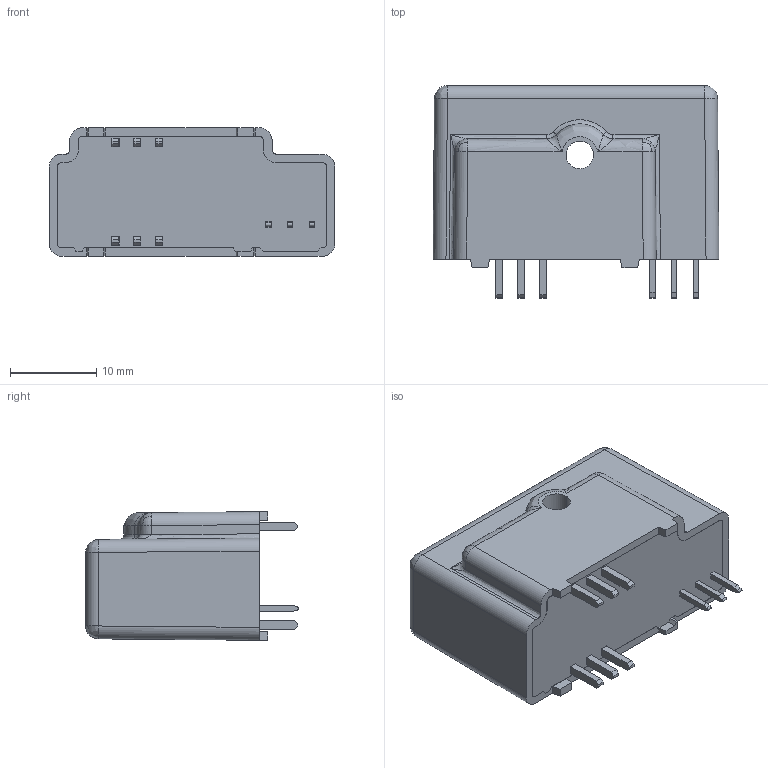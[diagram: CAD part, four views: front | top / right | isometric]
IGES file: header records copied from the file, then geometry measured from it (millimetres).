
Start section: Elysium IGES Interface
Global section: file name: U:\BLACKBOX DIVERSES\LAH_25_NP_SP3.igs; native system: Creo Elements/Direct Modeling 17.0E  05-Feb-2012; preprocessor: Creo Element/Direct IGES_3D V2.2; author: Unknown; organization: Unknown; date: 20140108.144239; units: millimetre
Bounding box: 33.2 x 24.7 x 14.95 mm (x, y, z)
Volume: 8596.1 mm3; surface area: 2957.9 mm2
Topology: 1 solids, 1 shells, 310 faces, 817 edges, 524 vertices
Faces by surface type: bspline 310
